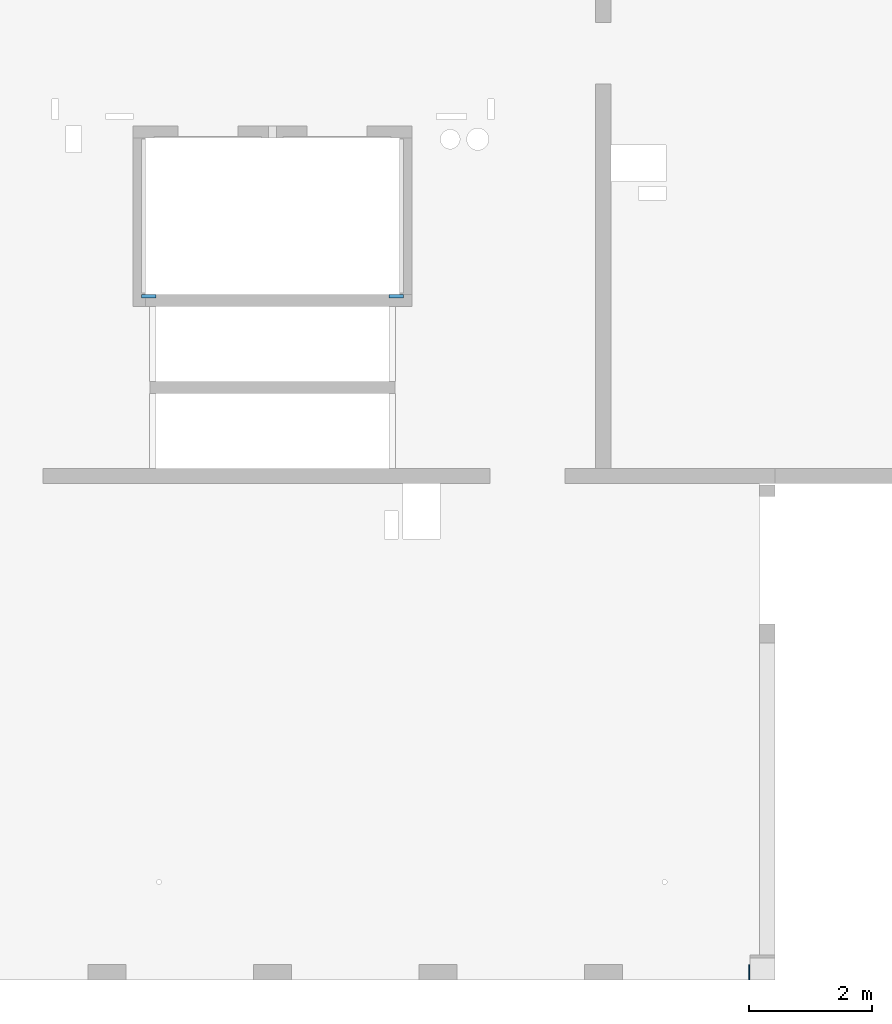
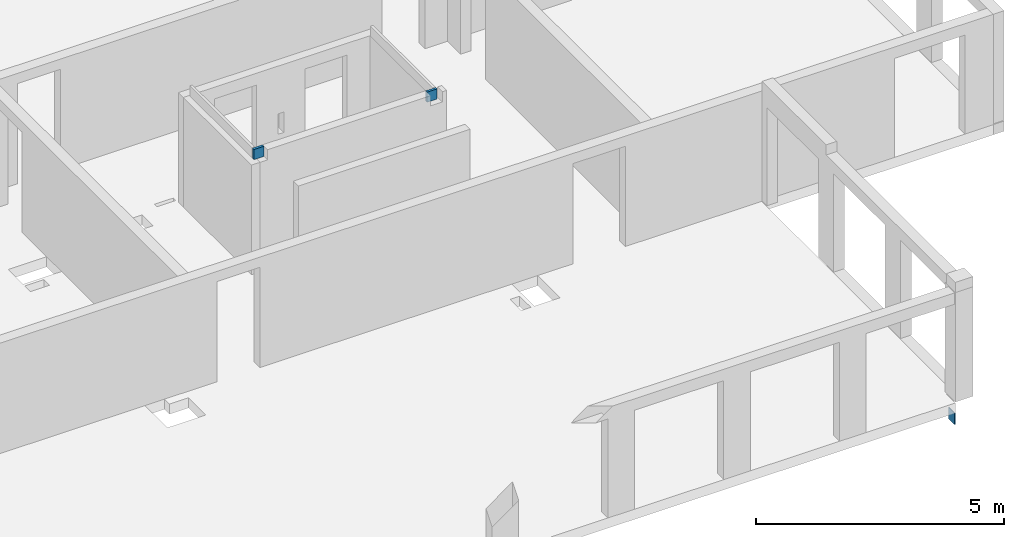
# One storey, part 7 of 8: 3 walls.
"""IFC2X3 building model written with IfcOpenShell, lengths in millimetres."""

from ifc_helpers import new_model, entity, si_unit, converted_unit, derived_unit, direction, frame, frame_2d, origin, place, context, subcontext, project, spatial, rectangle, extrude, material, layer, layer_set, layer_usage, type_object, element, save


model = new_model("IFC2X3")

# Units and contexts
model_context = context("Model", 3, precision=0.01, world=origin(), true_north=direction((6.12303176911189e-17, 1.0)))
body_context = subcontext(model_context, "Body", "Model", "MODEL_VIEW")
ifc_project = project(units=[si_unit("LENGTHUNIT", "METRE", prefix="MILLI"), si_unit("AREAUNIT", "SQUARE_METRE"), si_unit("VOLUMEUNIT", "CUBIC_METRE"), converted_unit("PLANEANGLEUNIT", "DEGREE", entity("IfcRatioMeasure", 0.0174532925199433), si_unit("PLANEANGLEUNIT", "RADIAN"), dimensions=[0, 0, 0, 0, 0, 0, 0]), si_unit("MASSUNIT", "GRAM", prefix="KILO"), derived_unit("MASSDENSITYUNIT", [(si_unit("MASSUNIT", "GRAM", prefix="KILO"), 1), (si_unit("LENGTHUNIT", "METRE"), -3)]), si_unit("TIMEUNIT", "SECOND"), si_unit("FREQUENCYUNIT", "HERTZ"), si_unit("THERMODYNAMICTEMPERATUREUNIT", "DEGREE_CELSIUS"), derived_unit("THERMALTRANSMITTANCEUNIT", [(si_unit("MASSUNIT", "GRAM", prefix="KILO"), 1), (si_unit("THERMODYNAMICTEMPERATUREUNIT", "KELVIN"), -1), (si_unit("TIMEUNIT", "SECOND"), -3)]), derived_unit("VOLUMETRICFLOWRATEUNIT", [(si_unit("LENGTHUNIT", "METRE"), 3), (si_unit("TIMEUNIT", "SECOND"), -1)]), si_unit("ELECTRICCURRENTUNIT", "AMPERE"), si_unit("ELECTRICVOLTAGEUNIT", "VOLT"), si_unit("POWERUNIT", "WATT"), si_unit("FORCEUNIT", "NEWTON", prefix="KILO"), si_unit("ILLUMINANCEUNIT", "LUX"), si_unit("LUMINOUSFLUXUNIT", "LUMEN"), si_unit("LUMINOUSINTENSITYUNIT", "CANDELA"), derived_unit("USERDEFINED", [(si_unit("MASSUNIT", "GRAM", prefix="KILO"), -1), (si_unit("LENGTHUNIT", "METRE"), -2), (si_unit("TIMEUNIT", "SECOND"), 3), (si_unit("LUMINOUSFLUXUNIT", "LUMEN"), 1)]), derived_unit("LINEARVELOCITYUNIT", [(si_unit("LENGTHUNIT", "METRE"), 1), (si_unit("TIMEUNIT", "SECOND"), -1)]), si_unit("PRESSUREUNIT", "PASCAL"), derived_unit("USERDEFINED", [(si_unit("LENGTHUNIT", "METRE"), -2), (si_unit("MASSUNIT", "GRAM", prefix="KILO"), 1), (si_unit("TIMEUNIT", "SECOND"), -2)])], contexts=[model_context])

# Site, building, storey
site_placement = place(None, origin())
site = spatial("IfcSite", under=ifc_project, at=site_placement, Name="Default", CompositionType="ELEMENT")
building_placement = place(site_placement, origin())
building = spatial("IfcBuilding", under=site, at=building_placement, Name="niet gebruiken", CompositionType="ELEMENT")
storey_placement = place(building_placement, frame((0.0, 0.0, 42300.0)))
storey = spatial("IfcBuildingStorey", under=building, at=storey_placement, Name="14 veertiende verdieping", CompositionType="ELEMENT", Elevation=42300.0)

# Walls
ifc_material_1 = material(Name="NLRS_f2_beton ihwg")
ifc_layer_1 = layer(ifc_material_1, 250.0)
ifc_layer_set_1 = layer_set([ifc_layer_1], Name="Basic Wall:NLRS_21.21_WA_beton ihwg d=250_gen")
ifc_layer_usage_1 = layer_usage(ifc_layer_set_1, "AXIS2", "NEGATIVE", 125.0)
wall_type_1 = type_object("IfcWallType", Name="Basic Wall:NLRS_21.21_WA_beton ihwg d=250_gen", PredefinedType="STANDARD", material=ifc_layer_set_1)
wall_1_placement = place(storey_placement, frame((99570.0, 28881.0, -620.0)))
element("IfcWallStandardCase", 1, at=wall_1_placement, inside=storey, type_object=wall_type_1, material=ifc_layer_usage_1, Name="Basic Wall:NLRS_21.21_WA_beton ihwg d=250_gen", ObjectType="Basic Wall:NLRS_21.21_WA_beton ihwg d=250_gen", context=body_context, shape_type="SweptSolid", body=[
    extrude(rectangle(XDim=19.9999999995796, YDim=250.000000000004, at=frame_2d((9.99999999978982, 1.63424829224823e-13), x_axis=(-1.0, 0.0))), origin(), (0.0, 0.0, 1.0), 280.000000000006),
])
ifc_material_2 = material(Name="NLRS_f2_beton prefab")
ifc_layer_2 = layer(ifc_material_2, 60.0)
ifc_layer_set_2 = layer_set([ifc_layer_2], Name="Basic Wall:NLRS_22.21_WA_beton prefab d=60_gen")
ifc_layer_usage_2 = layer_usage(ifc_layer_set_2, "AXIS2", "NEGATIVE", 30.0)
wall_type_2 = type_object("IfcWallType", Name="Basic Wall:NLRS_22.21_WA_beton prefab d=60_gen", PredefinedType="STANDARD", material=ifc_layer_set_2)
wall_2_placement = place(storey_placement, frame((89665.0, 39916.0, 2630.0)))
element("IfcWallStandardCase", 2, at=wall_2_placement, inside=storey, type_object=wall_type_2, material=ifc_layer_usage_2, Name="Basic Wall:NLRS_22.21_WA_beton prefab d=60_gen", ObjectType="Basic Wall:NLRS_22.21_WA_beton prefab d=60_gen", context=body_context, shape_type="SweptSolid", body=[
    extrude(rectangle(XDim=234.999967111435, YDim=60.0000000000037, at=frame_2d((117.499983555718, -4.12292422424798e-12), x_axis=(-1.0, 0.0))), origin(), (0.0, 0.0, 1.0), 250.000000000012),
])
ifc_layer_usage_3 = layer_usage(ifc_layer_set_2, "AXIS2", "POSITIVE", -30.0)
wall_3_placement = place(storey_placement, frame((93935.0, 39916.0, 2630.0), z_axis=(0.0, 0.0, 1.0), x_axis=(-1.0, 0.0, 0.0)))
element("IfcWallStandardCase", 3, at=wall_3_placement, inside=storey, type_object=wall_type_2, material=ifc_layer_usage_3, Name="Basic Wall:NLRS_22.21_WA_beton prefab d=60_gen", ObjectType="Basic Wall:NLRS_22.21_WA_beton prefab d=60_gen", context=body_context, shape_type="SweptSolid", body=[
    extrude(rectangle(XDim=234.999967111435, YDim=60.0000000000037, at=frame_2d((117.499983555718, 4.12114786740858e-12), x_axis=(-1.0, 0.0))), origin(), (0.0, 0.0, 1.0), 250.000000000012),
])

save(model, "model.ifc")
